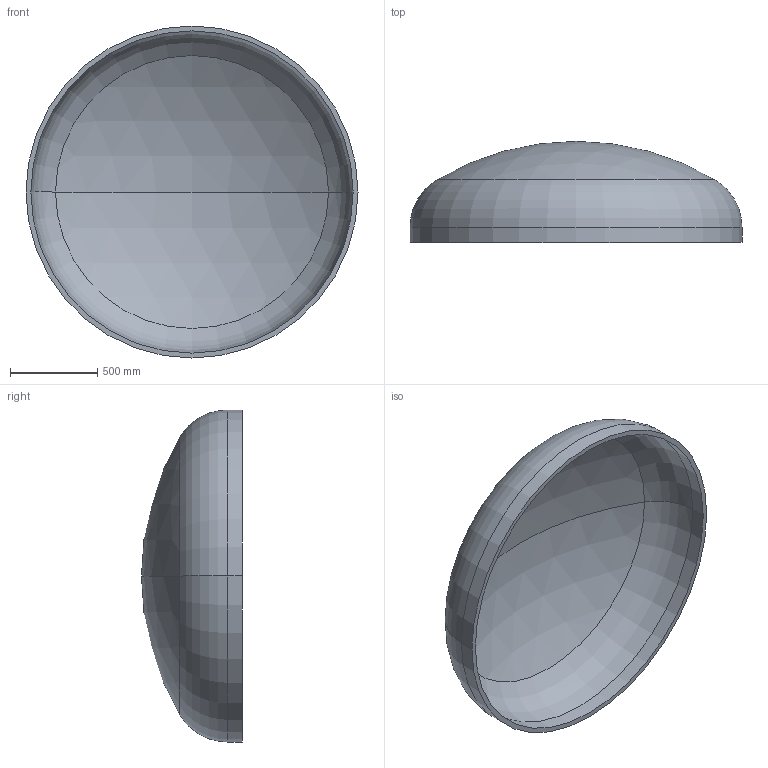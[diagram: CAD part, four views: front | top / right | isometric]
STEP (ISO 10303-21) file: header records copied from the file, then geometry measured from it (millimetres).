
FILE_DESCRIPTION (( 'STEP AP203' ), '1' );
FILE_NAME ('DIN 28013 Korbbogenform_-_Boden DIN 28013 - 1900 x 85 - I - s=28.step', '2016-07-01T13:03:09', ( '' ), ( '' ), 'SwSTEP 2.0', 'SolidWorks 2013', '' );
FILE_SCHEMA (( 'CONFIG_CONTROL_DESIGN' ));
Length unit declared in the file: millimetre
Products named in the file (1): DIN 28013 Korbbogenform_-_Boden DIN 28013 - 1900 x 85 - I - s=28
Bounding box: 1900 x 577.79 x 1900 mm (x, y, z)
Volume: 121639825.8 mm3; surface area: 8854867.7 mm2
Topology: 1 solids, 1 shells, 13 faces, 24 edges, 14 vertices
Faces by surface type: torus 4, cylinder 4, sphere 4, plane 1
Entity records: 407 total; most frequent: DIRECTION 72, CARTESIAN_POINT 52, ORIENTED_EDGE 48, AXIS2_PLACEMENT_3D 34, EDGE_CURVE 24, CIRCLE 20, EDGE_LOOP 14, VERTEX_POINT 14
